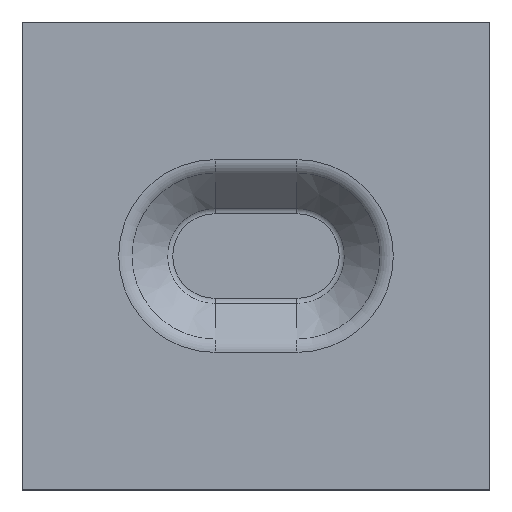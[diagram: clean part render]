
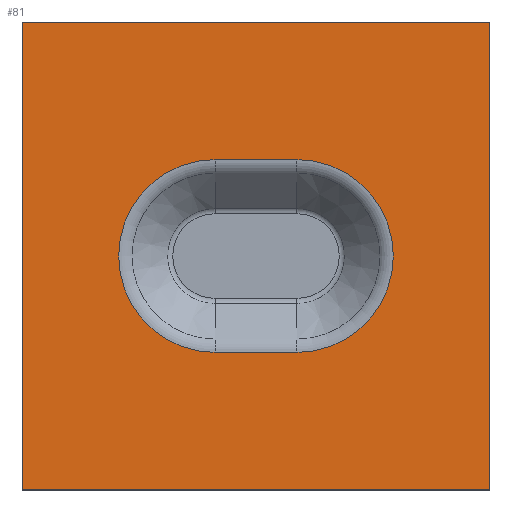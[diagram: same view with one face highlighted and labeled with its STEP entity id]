
A CAD part, top view. The second image highlights one B-rep face of the part: STEP entity #81.
In plain terms, the highlighted planar face has unit normal (0, 0, 1).
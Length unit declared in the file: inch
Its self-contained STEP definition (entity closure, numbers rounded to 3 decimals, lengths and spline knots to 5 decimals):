
#81=ADVANCED_FACE('',(#120,#121),#122,.F.);
#120=FACE_OUTER_BOUND('',#186,.T.);
#121=FACE_BOUND('',#187,.T.);
#122=PLANE('',#188);
#186=EDGE_LOOP('',(#282,#283,#284,#285));
#187=EDGE_LOOP('',(#286,#287,#288,#289));
#188=AXIS2_PLACEMENT_3D('',#290,#291,#292);
#282=ORIENTED_EDGE('',*,*,#489,.T.);
#283=ORIENTED_EDGE('',*,*,#490,.T.);
#284=ORIENTED_EDGE('',*,*,#491,.T.);
#285=ORIENTED_EDGE('',*,*,#492,.T.);
#286=ORIENTED_EDGE('',*,*,#475,.F.);
#287=ORIENTED_EDGE('',*,*,#477,.F.);
#288=ORIENTED_EDGE('',*,*,#480,.F.);
#289=ORIENTED_EDGE('',*,*,#482,.F.);
#290=CARTESIAN_POINT('',(-1.76692,0.64151,0.));
#291=DIRECTION('',(0.,0.0,-1.0));
#292=DIRECTION('',(-1.0,0.0,0.));
#475=EDGE_CURVE('',#545,#540,#547,.T.);
#477=EDGE_CURVE('',#549,#545,#551,.T.);
#480=EDGE_CURVE('',#554,#549,#556,.T.);
#482=EDGE_CURVE('',#540,#554,#558,.T.);
#489=EDGE_CURVE('',#568,#569,#570,.T.);
#490=EDGE_CURVE('',#569,#571,#572,.T.);
#491=EDGE_CURVE('',#571,#573,#574,.T.);
#492=EDGE_CURVE('',#573,#568,#575,.T.);
#540=VERTEX_POINT('',#648);
#545=VERTEX_POINT('',#654);
#547=LINE('',#656,#657);
#549=VERTEX_POINT('',#659);
#551=CIRCLE('',#661,0.41197);
#554=VERTEX_POINT('',#664);
#556=LINE('',#666,#667);
#558=CIRCLE('',#670,0.41197);
#568=VERTEX_POINT('',#684);
#569=VERTEX_POINT('',#685);
#570=LINE('',#686,#687);
#571=VERTEX_POINT('',#688);
#572=LINE('',#689,#690);
#573=VERTEX_POINT('',#691);
#574=LINE('',#692,#693);
#575=LINE('',#694,#695);
#648=CARTESIAN_POINT('',(-1.59192,0.22954,0.));
#654=CARTESIAN_POINT('',(-1.94192,0.22954,0.));
#656=CARTESIAN_POINT('',(-1.76692,0.22954,0.));
#657=VECTOR('',#799,1.);
#659=CARTESIAN_POINT('',(-1.94192,1.05348,0.));
#661=AXIS2_PLACEMENT_3D('',#803,#804,#805);
#664=CARTESIAN_POINT('',(-1.59192,1.05348,0.));
#666=CARTESIAN_POINT('',(-1.76692,1.05348,0.));
#667=VECTOR('',#812,1.);
#670=AXIS2_PLACEMENT_3D('',#814,#815,#816);
#684=CARTESIAN_POINT('',(-2.76692,1.64151,0.));
#685=CARTESIAN_POINT('',(-2.76692,-0.35849,0.));
#686=CARTESIAN_POINT('',(-2.76692,0.64151,0.));
#687=VECTOR('',#827,1.);
#688=CARTESIAN_POINT('',(-0.76692,-0.35849,0.));
#689=CARTESIAN_POINT('',(-1.76692,-0.35849,0.));
#690=VECTOR('',#828,1.);
#691=CARTESIAN_POINT('',(-0.76692,1.64151,0.));
#692=CARTESIAN_POINT('',(-0.76692,0.64151,0.));
#693=VECTOR('',#829,1.);
#694=CARTESIAN_POINT('',(-1.76692,1.64151,0.));
#695=VECTOR('',#830,1.);
#799=DIRECTION('',(1.0,-0.0,0.));
#803=CARTESIAN_POINT('',(-1.94192,0.64151,0.));
#804=DIRECTION('',(0.,0.0,1.0));
#805=DIRECTION('',(-1.0,0.0,0.));
#812=DIRECTION('',(-1.0,0.0,0.));
#814=CARTESIAN_POINT('',(-1.59192,0.64151,0.));
#815=DIRECTION('',(0.,0.0,1.0));
#816=DIRECTION('',(1.0,0.,0.));
#827=DIRECTION('',(-0.0,-1.0,0.0));
#828=DIRECTION('',(1.0,0.0,0.));
#829=DIRECTION('',(0.0,1.0,0.0));
#830=DIRECTION('',(-1.0,0.0,0.));
